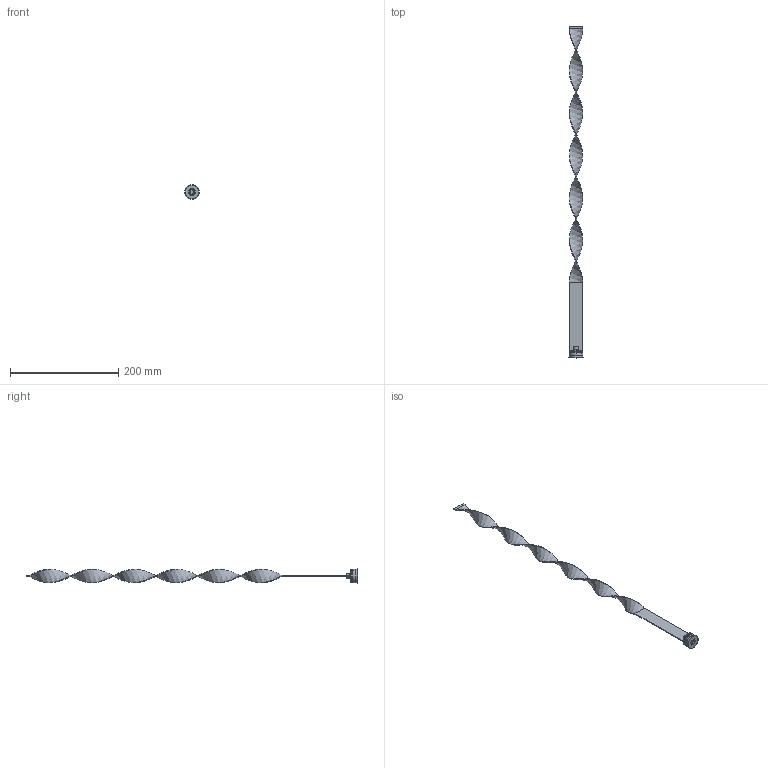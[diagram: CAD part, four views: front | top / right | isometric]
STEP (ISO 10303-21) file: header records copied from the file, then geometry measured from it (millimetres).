
FILE_DESCRIPTION (( 'STEP AP203' ), '1' );
FILE_NAME ('RLS-25Fx600-24,5.STEP', '2015-12-10T15:41:10', ( 'Balzi' ), ( '' ), 'SwSTEP 2.0', 'SolidWorks 2015', '' );
FILE_SCHEMA (( 'CONFIG_CONTROL_DESIGN' ));
Length unit declared in the file: millimetre
Products named in the file (1): RLS-25Fx600-24,5
Bounding box: 26.5 x 614 x 26.5 mm (x, y, z)
Volume: 28963.6 mm3; surface area: 35041.7 mm2
Topology: 1 solids, 1 shells, 83 faces, 193 edges, 117 vertices
Faces by surface type: plane 35, cone 19, cylinder 17, torus 8, bspline 4
Entity records: 5293 total; most frequent: CARTESIAN_POINT 3328, DIRECTION 406, ORIENTED_EDGE 386, EDGE_CURVE 193, AXIS2_PLACEMENT_3D 151, VERTEX_POINT 117, LINE 104, VECTOR 104
